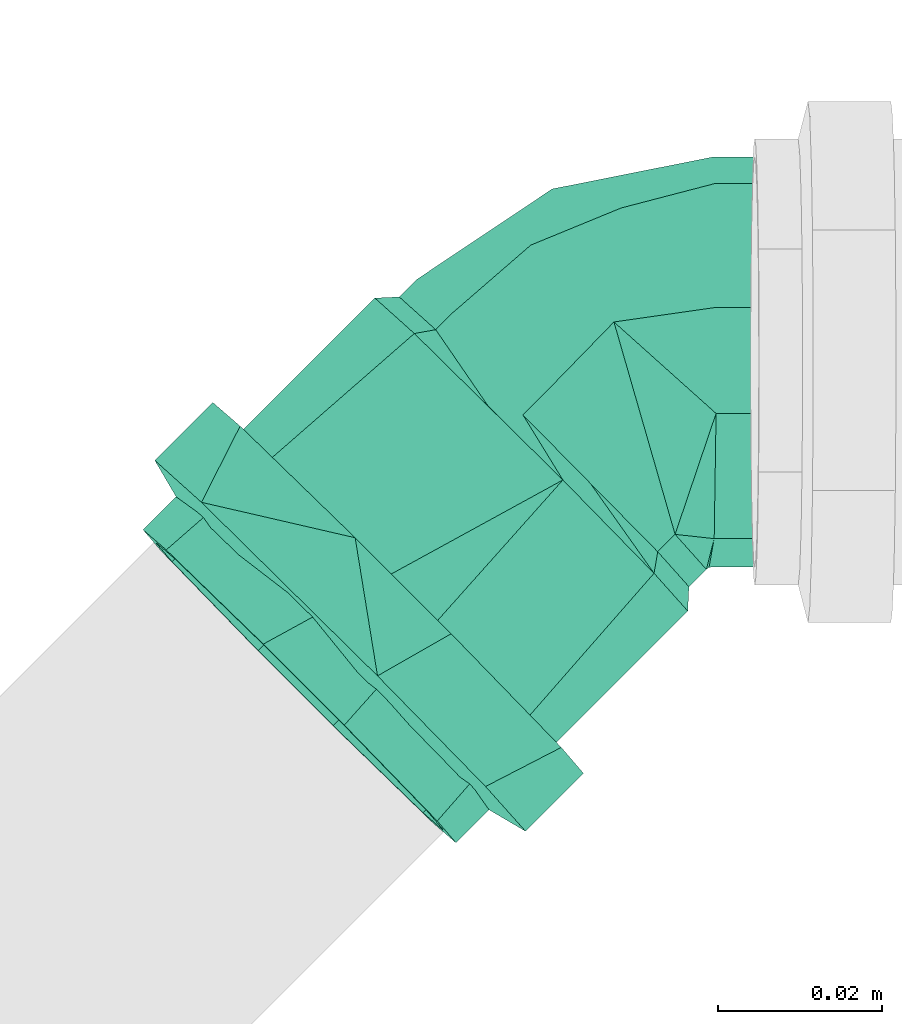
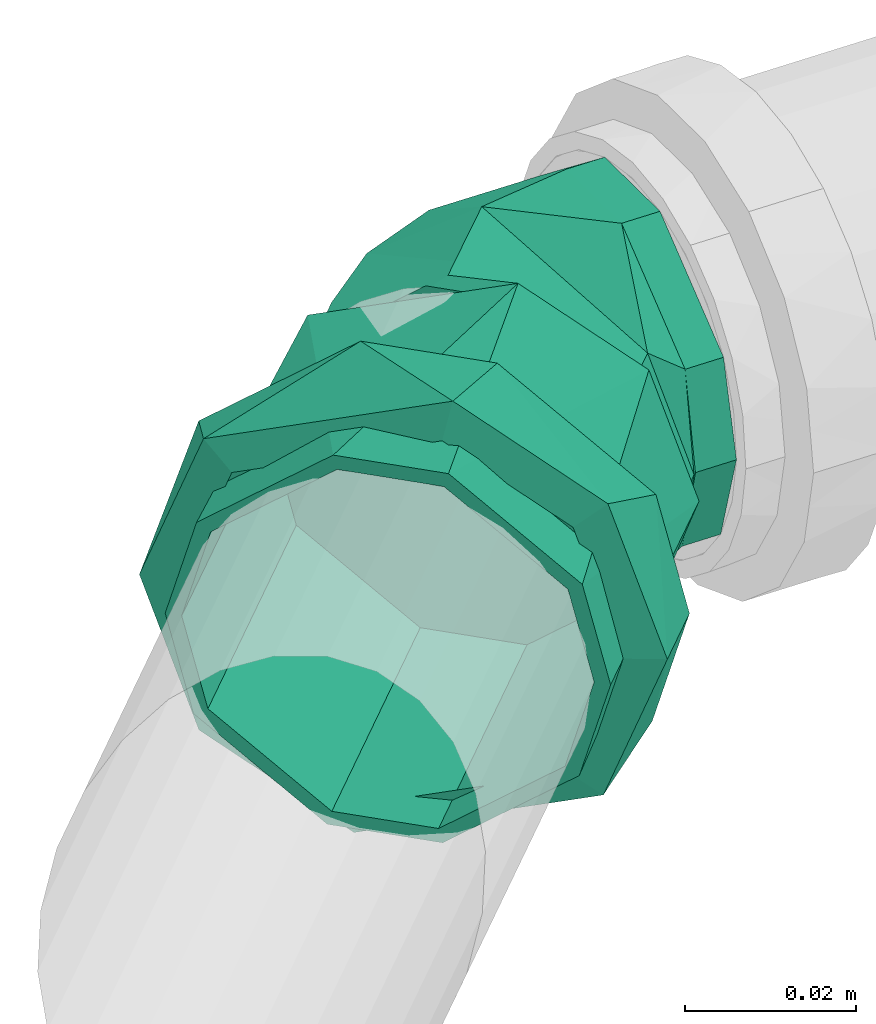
# One storey, part 294 of 589: 1 flow fitting.
"""IFC2X3 building model written with IfcOpenShell, lengths in millimetres."""

from ifc_helpers import new_model, entity, si_unit, converted_unit, derived_unit, direction, frame, origin, place, context, subcontext, project, spatial, faceted_brep, source, transform, mapped, material, type_object, type_shapes, element, save


model = new_model("IFC2X3")

# Units and contexts
model_context = context("Model", 3, precision=0.01, world=origin(), true_north=direction((6.123031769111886e-17, 1.0)))
body_context = subcontext(model_context, "Body", "Model", "MODEL_VIEW")
ifc_project = project(units=[si_unit("LENGTHUNIT", "METRE", prefix="MILLI"), si_unit("AREAUNIT", "SQUARE_METRE"), si_unit("VOLUMEUNIT", "CUBIC_METRE"), converted_unit("PLANEANGLEUNIT", "DEGREE", entity("IfcRatioMeasure", 0.017453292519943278), si_unit("PLANEANGLEUNIT", "RADIAN"), dimensions=[0, 0, 0, 0, 0, 0, 0]), si_unit("MASSUNIT", "GRAM", prefix="KILO"), derived_unit("MASSDENSITYUNIT", [(si_unit("MASSUNIT", "GRAM", prefix="KILO"), 1), (si_unit("LENGTHUNIT", "METRE"), -3)]), derived_unit("IONCONCENTRATIONUNIT", [(si_unit("MASSUNIT", "GRAM", prefix="KILO"), 1), (si_unit("LENGTHUNIT", "METRE"), -3)]), derived_unit("MOMENTOFINERTIAUNIT", [(si_unit("LENGTHUNIT", "METRE"), 4)]), si_unit("TIMEUNIT", "SECOND"), si_unit("FREQUENCYUNIT", "HERTZ"), si_unit("THERMODYNAMICTEMPERATUREUNIT", "DEGREE_CELSIUS"), derived_unit("THERMALTRANSMITTANCEUNIT", [(si_unit("MASSUNIT", "GRAM", prefix="KILO"), 1), (si_unit("THERMODYNAMICTEMPERATUREUNIT", "KELVIN"), -1), (si_unit("TIMEUNIT", "SECOND"), -3)]), derived_unit("THERMALCONDUCTANCEUNIT", [(si_unit("MASSUNIT", "GRAM", prefix="KILO"), 1), (si_unit("THERMODYNAMICTEMPERATUREUNIT", "KELVIN"), -1), (si_unit("TIMEUNIT", "SECOND"), -3), (si_unit("LENGTHUNIT", "METRE"), 1)]), derived_unit("VOLUMETRICFLOWRATEUNIT", [(si_unit("LENGTHUNIT", "METRE"), 3), (si_unit("TIMEUNIT", "SECOND"), -1)]), derived_unit("MASSFLOWRATEUNIT", [(si_unit("MASSUNIT", "GRAM", prefix="KILO"), 1), (si_unit("TIMEUNIT", "SECOND"), -1)]), derived_unit("ROTATIONALFREQUENCYUNIT", [(si_unit("TIMEUNIT", "SECOND"), -1)]), si_unit("ELECTRICCURRENTUNIT", "AMPERE"), si_unit("ELECTRICVOLTAGEUNIT", "VOLT"), si_unit("POWERUNIT", "WATT"), si_unit("FORCEUNIT", "NEWTON", prefix="KILO"), si_unit("ILLUMINANCEUNIT", "LUX"), si_unit("LUMINOUSFLUXUNIT", "LUMEN"), si_unit("LUMINOUSINTENSITYUNIT", "CANDELA"), derived_unit("USERDEFINED", [(si_unit("MASSUNIT", "GRAM", prefix="KILO"), -1), (si_unit("LENGTHUNIT", "METRE"), -2), (si_unit("TIMEUNIT", "SECOND"), 3), (si_unit("LUMINOUSFLUXUNIT", "LUMEN"), 1)]), derived_unit("USERDEFINED", [(si_unit("MASSUNIT", "GRAM", prefix="KILO"), 1), (si_unit("TIMEUNIT", "SECOND"), -3), (si_unit("LENGTHUNIT", "METRE"), 3), (si_unit("ELECTRICCURRENTUNIT", "AMPERE"), -2)]), derived_unit("SOUNDPOWERUNIT", [(si_unit("MASSUNIT", "GRAM", prefix="KILO"), 1), (si_unit("TIMEUNIT", "SECOND"), -3), (si_unit("LENGTHUNIT", "METRE"), 2)]), derived_unit("SOUNDPRESSUREUNIT", [(si_unit("MASSUNIT", "GRAM", prefix="KILO"), 1), (si_unit("LENGTHUNIT", "METRE"), -1), (si_unit("TIMEUNIT", "SECOND"), -2)]), derived_unit("LINEARVELOCITYUNIT", [(si_unit("LENGTHUNIT", "METRE"), 1), (si_unit("TIMEUNIT", "SECOND"), -1)]), si_unit("PRESSUREUNIT", "PASCAL"), derived_unit("USERDEFINED", [(si_unit("MASSUNIT", "GRAM", prefix="KILO"), 1), (si_unit("LENGTHUNIT", "METRE"), -2), (si_unit("TIMEUNIT", "SECOND"), -2)]), derived_unit("LINEARFORCEUNIT", [(si_unit("MASSUNIT", "GRAM", prefix="KILO"), 1), (si_unit("TIMEUNIT", "SECOND"), -2)]), derived_unit("PLANARFORCEUNIT", [(si_unit("MASSUNIT", "GRAM", prefix="KILO"), 1), (si_unit("LENGTHUNIT", "METRE"), -1), (si_unit("TIMEUNIT", "SECOND"), -2)]), derived_unit("SPECIFICHEATCAPACITYUNIT", [(si_unit("THERMODYNAMICTEMPERATUREUNIT", "KELVIN"), -1), (si_unit("LENGTHUNIT", "METRE"), 2), (si_unit("TIMEUNIT", "SECOND"), -2)]), derived_unit("HEATINGVALUEUNIT", [(si_unit("LENGTHUNIT", "METRE"), 2), (si_unit("TIMEUNIT", "SECOND"), -2)]), derived_unit("VAPORPERMEABILITYUNIT", [(si_unit("LENGTHUNIT", "METRE"), -1), (si_unit("TIMEUNIT", "SECOND"), 1)]), derived_unit("DYNAMICVISCOSITYUNIT", [(si_unit("MASSUNIT", "GRAM", prefix="KILO"), 1), (si_unit("TIMEUNIT", "SECOND"), -1), (si_unit("LENGTHUNIT", "METRE"), -1)]), derived_unit("THERMALEXPANSIONCOEFFICIENTUNIT", [(si_unit("THERMODYNAMICTEMPERATUREUNIT", "KELVIN"), -1)]), derived_unit("MODULUSOFELASTICITYUNIT", [(si_unit("MASSUNIT", "GRAM", prefix="KILO"), 1), (si_unit("LENGTHUNIT", "METRE"), -1), (si_unit("TIMEUNIT", "SECOND"), -2)]), derived_unit("ISOTHERMALMOISTURECAPACITYUNIT", [(si_unit("LENGTHUNIT", "METRE"), 3), (si_unit("MASSUNIT", "GRAM", prefix="KILO"), -1)]), derived_unit("MOISTUREDIFFUSIVITYUNIT", [(si_unit("TIMEUNIT", "SECOND"), -1), (si_unit("LENGTHUNIT", "METRE"), 2)])], contexts=[model_context])

# Site, building, storey
site_placement = place(None, origin())
site = spatial("IfcSite", under=ifc_project, at=site_placement, Name="Default", CompositionType="ELEMENT")
building_placement = place(site_placement, origin())
building = spatial("IfcBuilding", under=site, at=building_placement, CompositionType="ELEMENT")
storey_placement = place(building_placement, frame((0.0, 0.0, 100.0)))
storey = spatial("IfcBuildingStorey", under=building, at=storey_placement, Name="TÉRREO", CompositionType="ELEMENT", Elevation=100.0)

# Flow fitting
ifc_material = material(Name="PVC Série Normal")
pipe_fitting_type = type_object("IfcPipeFittingType", Name="PVC Esgoto_Joelho 45_90_Rodrigo MEP:a. Série Normal", PredefinedType="NOTDEFINED", material=ifc_material)
shared_shape = source(origin(), body_context, "Body", "Brep", [
    faceted_brep([(-15.967030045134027, -21.650635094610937, -12.500000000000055), (-15.967030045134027, -25.0, 0.0), (-15.967030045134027, -21.650635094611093, 12.499999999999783), (-15.967030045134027, -6.470476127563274, 24.148145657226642), (-15.967030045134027, 6.470476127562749, 24.14814565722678), (-15.967030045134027, 21.650635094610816, 12.500000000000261), (-15.967030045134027, 25.0, 0.0), (-15.967030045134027, 21.650635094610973, -12.499999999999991), (-15.967030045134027, 6.4704761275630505, -24.1481456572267), (-15.967030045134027, -6.4704761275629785, -24.14814565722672), (-10.767030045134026, 6.4704761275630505, -24.1481456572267), (-10.767030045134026, 21.650635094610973, -12.499999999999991), (-10.767030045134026, 25.0, 0.0), (-10.767030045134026, 21.650635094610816, 12.500000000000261), (-10.767030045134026, 6.470476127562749, 24.14814565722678), (-10.767030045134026, -6.470476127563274, 24.148145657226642), (-10.767030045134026, -21.650635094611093, 12.499999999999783), (-10.767030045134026, -25.0, 0.0), (-10.767030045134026, -21.650635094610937, -12.500000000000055), (-10.767030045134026, -6.4704761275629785, -24.14814565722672)], [[[0, 1, 2, 3, 4, 5, 6, 7, 8, 9]], [[10, 11, 12, 13, 14, 15, 16, 17, 18, 19]], [[1, 17, 16, 2]], [[2, 16, 15, 3]], [[15, 14, 4, 3]], [[4, 14, 13, 5]], [[5, 13, 12, 6]], [[6, 12, 11, 7]], [[7, 11, 10, 8]], [[10, 19, 9, 8]], [[9, 19, 18, 0]], [[0, 18, 17, 1]]]),
    faceted_brep([(32.49893906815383, 22.607125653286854, -26.079997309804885), (22.61789019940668, 32.49144831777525, -26.079997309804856), (21.702978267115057, 33.406663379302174, -30.90962644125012), (33.41385100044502, 21.691910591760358, -30.90962644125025), (44.08973158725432, 11.012492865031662, -13.500000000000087), (7.965742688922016, 47.14845038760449, -16.0), (11.027097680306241, 44.08608110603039, -13.499999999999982), (8.46969404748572, 46.64433205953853, 0.0), (4.934745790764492, 50.18045151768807, 0.0), (11.027097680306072, 44.08608110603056, 13.499999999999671), (7.965742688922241, 47.14845038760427, 16.0), (22.617890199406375, 32.49144831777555, 26.079997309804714), (21.702978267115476, 33.406663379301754, 30.909626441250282), (32.49893906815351, 22.607125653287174, 26.07999730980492), (33.41385100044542, 21.69191059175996, 30.909626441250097), (44.08973158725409, 11.01249286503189, 13.500000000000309), (47.15108657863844, 7.950123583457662, 16.0), (50.18208347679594, 4.9181224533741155, 0.0), (46.64713522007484, 8.454241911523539, 0.0), (47.15108657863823, 7.950123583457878, -16.0), (57.254322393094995, 11.988018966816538, 0.0), (51.96057869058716, 17.283516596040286, 20.570569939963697), (30.698989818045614, 38.55214987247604, 31.51307341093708), (17.297080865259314, 51.95849915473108, 20.56442050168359), (12.006984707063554, 57.25034803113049, 0.0), (17.297080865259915, 51.95849915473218, -20.564420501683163), (38.55672846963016, 30.691807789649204, -31.51446740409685), (51.96057869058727, 17.28351659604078, -20.57056993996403), (15.541932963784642, 53.714228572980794, 0.0), (16.461324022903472, 54.633315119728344, 0.0), (16.820634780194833, 52.43510309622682, 6.749999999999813), (18.099336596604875, 51.15597761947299, 13.49999999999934), (20.99703472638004, 48.257319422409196, 16.64499932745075), (23.894732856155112, 45.35866122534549, 19.789998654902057), (26.792430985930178, 42.4600030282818, 22.93499798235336), (29.690129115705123, 39.561344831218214, 26.07999730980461), (34.630653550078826, 34.619183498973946, 26.079997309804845), (39.571177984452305, 29.677022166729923, 26.079997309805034), (42.46887611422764, 26.778363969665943, 22.93499798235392), (45.36657424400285, 23.87970577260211, 19.789998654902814), (48.264272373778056, 20.981047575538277, 16.644999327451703), (51.16197050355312, 18.082389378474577, 13.500000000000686), (52.440672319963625, 16.80326390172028, 6.7500000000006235), (54.6387651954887, 16.44322497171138, 0.0), (53.719374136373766, 15.524138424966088, 0.0), (52.44067231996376, 16.80326390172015, -6.750000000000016), (51.161970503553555, 18.082389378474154, -13.499999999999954), (48.26427237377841, 20.98104757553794, -16.644999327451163), (45.36657424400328, 23.879705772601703, -19.78999865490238), (42.468876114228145, 26.778363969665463, -22.9349979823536), (39.571177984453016, 29.677022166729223, -26.079997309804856), (34.6306535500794, 34.6191834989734, -26.079997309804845), (29.690129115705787, 39.56134483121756, -26.079997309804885), (26.792430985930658, 42.46000302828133, -22.93499798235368), (23.894732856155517, 45.358661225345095, -19.78999865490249), (20.99703472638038, 48.25731942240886, -16.64499932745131), (18.09933659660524, 51.15597761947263, -13.50000000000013), (16.82063478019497, 52.43510309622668, -6.75000000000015), (52.40700587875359, 18.675723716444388, 8.67561489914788), (50.175246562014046, 20.908222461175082, 17.351229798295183), (45.690789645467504, 25.394165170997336, 19.661005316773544), (41.20633272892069, 29.88010788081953, 21.97078083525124), (36.721875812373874, 34.36605059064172, 24.280556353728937), (32.23741889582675, 38.851993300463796, 26.590331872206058), (20.927920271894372, 50.16523899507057, 17.356418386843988), (18.694622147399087, 52.39927705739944, 8.678209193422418), (26.582669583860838, 44.50861614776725, 21.973375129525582), (18.694622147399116, 52.39927705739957, -8.678209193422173), (20.9279202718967, 50.165238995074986, -17.35641838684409), (25.412786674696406, 45.67888666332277, -19.664602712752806), (29.897653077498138, 41.19253433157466, -21.97278703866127), (34.38251948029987, 36.70618199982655, -24.28097136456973), (38.86738588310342, 32.21982966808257, -26.58915569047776), (50.1752465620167, 20.908222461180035, -17.351229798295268), (52.40700587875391, 18.67572371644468, -8.675614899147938), (44.521316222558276, 26.564026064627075, -21.970192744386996)], [[[0, 1, 2]], [[2, 3, 0]], [[4, 0, 3]], [[5, 2, 1]], [[1, 6, 5]], [[6, 7, 5]], [[8, 5, 7]], [[8, 7, 9]], [[10, 8, 9]], [[9, 11, 10]], [[11, 12, 10]], [[13, 12, 11]], [[12, 13, 14]], [[13, 15, 14]], [[16, 14, 15]], [[16, 15, 17]], [[17, 15, 18]], [[18, 4, 19]], [[17, 18, 19]], [[3, 19, 4]], [[20, 21, 16]], [[20, 16, 17]], [[16, 21, 14]], [[21, 22, 14]], [[12, 22, 23]], [[10, 23, 24]], [[23, 10, 12]], [[10, 24, 8]], [[22, 12, 14]], [[24, 25, 5]], [[24, 5, 8]], [[5, 25, 2]], [[25, 26, 2]], [[3, 26, 27]], [[19, 27, 20]], [[27, 19, 3]], [[19, 20, 17]], [[26, 3, 2]], [[9, 7, 28, 29, 30, 31]], [[11, 9, 31, 32, 33, 34, 35]], [[11, 35, 36, 37, 13]], [[15, 13, 37, 38, 39, 40, 41]], [[18, 15, 41, 42, 43, 44]], [[4, 18, 44, 43, 45, 46]], [[0, 4, 46, 47, 48, 49, 50]], [[0, 50, 51, 52, 1]], [[6, 1, 52, 53, 54, 55, 56]], [[7, 6, 56, 57, 29, 28]], [[20, 43, 58, 59]], [[59, 21, 20]], [[21, 59, 60, 61, 62, 63]], [[21, 63, 22]], [[23, 64, 65, 29]], [[23, 22, 64]], [[24, 23, 29]], [[22, 63, 66, 64]], [[25, 29, 67, 68]], [[29, 25, 24]], [[25, 68, 26]], [[26, 68, 69, 70, 71, 72]], [[20, 73, 74, 43]], [[27, 72, 75, 73]], [[27, 73, 20]], [[72, 27, 26]], [[41, 40, 39, 59]], [[31, 65, 64]], [[61, 60, 38]], [[38, 60, 39]], [[63, 62, 36]], [[66, 63, 35]], [[32, 31, 64, 33]], [[36, 62, 37]], [[36, 35, 63]], [[38, 37, 61]], [[34, 33, 66, 35]], [[65, 30, 29]], [[42, 58, 43]], [[60, 59, 39]], [[37, 62, 61]], [[58, 41, 59]], [[66, 33, 64]], [[42, 41, 58]], [[65, 31, 30]], [[56, 55, 54, 68]], [[46, 74, 73]], [[70, 69, 53]], [[53, 69, 54]], [[72, 71, 51]], [[75, 72, 50]], [[47, 46, 73, 48]], [[51, 71, 52]], [[51, 50, 72]], [[53, 52, 70]], [[49, 48, 75, 50]], [[74, 45, 43]], [[57, 67, 29]], [[69, 68, 54]], [[52, 71, 70]], [[67, 56, 68]], [[75, 48, 73]], [[57, 56, 67]], [[74, 46, 45]]]),
    faceted_brep([(15.866824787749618, 6.71244969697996, 24.148145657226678), (26.599040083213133, -4.023321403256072, 12.49999999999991), (28.96700640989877, -6.392072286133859, 0.0), (26.59904008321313, -4.023321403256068, -12.499999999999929), (15.866824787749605, 6.7124496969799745, -24.148145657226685), (6.71770546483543, 15.864600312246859, -24.148145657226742), (-4.014509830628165, 26.60037141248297, -12.50000000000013), (-6.3824761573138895, 28.969122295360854, 0.0), (-4.014509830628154, 26.60037141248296, 12.500000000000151), (6.71770546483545, 15.86460031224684, 24.148145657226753), (27.4111138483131, -7.94744951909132, 0.0), (23.27822622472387, -3.813192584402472, -16.06595351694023), (30.380985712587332, -7.806520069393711, 0.0), (5.635977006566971, 16.94668716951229, -21.97078083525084), (14.604890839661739, 7.9748017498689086, -26.590331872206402), (6.669126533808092, 12.801410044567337, -24.620677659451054), (25.914389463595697, -3.3384439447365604, -17.35641838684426), (-3.8026314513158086, 23.276637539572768, -16.070757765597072), (-3.332936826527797, 25.918572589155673, -17.35122979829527), (14.973676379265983, 4.494108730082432, -20.34331558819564), (-7.9383687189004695, 27.413745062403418, 0.0), (-7.796455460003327, 30.38357007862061, 0.0), (-3.8026314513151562, 23.27663753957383, 16.07075776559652), (-3.332936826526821, 25.91857258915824, 17.35122979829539), (16.944656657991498, 5.634260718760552, 21.972787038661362), (7.974923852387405, 14.606965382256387, 26.58915569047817), (12.807984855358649, 6.66051779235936, 24.619588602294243), (23.27822622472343, -3.8131925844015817, 16.065953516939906), (25.914389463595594, -3.3384439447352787, 17.356418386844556), (4.502676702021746, 14.968577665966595, 20.345173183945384), (34.640696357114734, 44.51027239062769, -26.07999730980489), (35.006661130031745, 44.14418636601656, -24.14814565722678), (44.15578045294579, 34.99203575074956, -24.148145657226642), (23.049903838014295, 56.10490517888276, -13.499999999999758), (44.52174522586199, 34.62594972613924, -26.07999730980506), (24.274445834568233, 54.879957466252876, -12.500000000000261), (21.906479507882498, 57.24870834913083, 0.0), (20.49250020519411, 58.66315613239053, 0.0), (24.27444583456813, 54.87995746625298, 12.499999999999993), (23.0499038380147, 56.104905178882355, 13.50000000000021), (35.00666113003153, 44.144186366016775, 24.148145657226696), (34.640696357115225, 44.5102723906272, 26.07999730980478), (44.15578045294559, 34.992035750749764, 24.14814565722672), (44.52174522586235, 34.625949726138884, 26.079997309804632), (54.88799574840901, 24.25626465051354, 12.500000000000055), (56.11253774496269, 23.031316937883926, 13.499999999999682), (58.66994137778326, 20.473065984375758, 0.0), (57.25596207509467, 21.88751376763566, 0.0), (56.11253774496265, 23.03131693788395, -13.500000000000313), (54.88799574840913, 24.256264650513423, -12.499999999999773), (25.289442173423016, -10.068418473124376, 0.0), (21.154302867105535, -5.931909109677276, 16.069749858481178), (10.68377913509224, 4.542083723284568, 24.62022085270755), (2.3793594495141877, 12.849254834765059, 20.344851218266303), (-5.925060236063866, 21.156425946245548, 16.069481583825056), (-10.060040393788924, 25.292776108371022, 0.0), (-5.925060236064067, 21.156425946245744, -16.06948158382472), (4.5453788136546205, 10.68251782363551, -24.620160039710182), (21.154302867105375, -5.931909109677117, -16.069749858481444), (12.849840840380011, 2.375304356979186, -20.344954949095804), (-10.767030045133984, -21.65063509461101, 12.499999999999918), (-10.767030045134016, -6.470476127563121, 24.148145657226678), (-10.767030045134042, 6.470476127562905, 24.14814565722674), (-10.767030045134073, 21.650635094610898, 12.500000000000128), (-10.76703004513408, 25.0, 0.0), (-10.767030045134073, 21.65063509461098, -12.499999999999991), (-10.767030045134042, 6.470476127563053, -24.1481456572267), (-10.767030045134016, -6.470476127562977, -24.14814565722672), (-10.767030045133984, -21.650635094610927, -12.500000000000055), (-10.767030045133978, -25.0, 0.0), (11.656201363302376, -14.144371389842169, 15.023571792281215), (1.6913455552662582, -4.6924143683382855, 23.963323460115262), (0.6213662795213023, -18.676600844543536, 14.858628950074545), (-3.6046282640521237, -23.575618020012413, 0.0), (8.745922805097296, -21.11947231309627, 0.0), (-10.384423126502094, 25.07608877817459, 0.0), (19.21699707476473, -14.124805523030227, 0.0), (1.6262309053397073, -4.6803495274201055, -23.97388545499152), (0.6210080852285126, -18.681175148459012, -14.852749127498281), (11.682599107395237, -14.100315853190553, -15.057518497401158)], [[[0, 1, 2, 3, 4, 5, 6, 7, 8, 9]], [[10, 11, 12]], [[13, 14, 15]], [[16, 12, 11]], [[13, 17, 18]], [[17, 13, 15]], [[16, 19, 14]], [[17, 20, 18]], [[18, 20, 21]], [[19, 16, 11]], [[14, 19, 15]], [[20, 22, 23]], [[24, 25, 26]], [[23, 21, 20]], [[24, 27, 28]], [[27, 24, 26]], [[23, 29, 25]], [[27, 10, 12]], [[28, 27, 12]], [[29, 23, 22]], [[25, 29, 26]], [[30, 31, 32]], [[31, 30, 33]], [[32, 34, 30]], [[33, 35, 31]], [[33, 36, 35]], [[36, 33, 37]], [[38, 36, 37]], [[38, 37, 39]], [[39, 40, 38]], [[39, 41, 40]], [[40, 41, 42]], [[43, 42, 41]], [[43, 44, 42]], [[44, 43, 45]], [[46, 44, 45]], [[47, 44, 46]], [[48, 47, 46]], [[48, 49, 47]], [[49, 48, 34]], [[34, 32, 49]], [[46, 45, 12]], [[45, 28, 12]], [[28, 45, 43]], [[43, 25, 24, 28]], [[23, 41, 39]], [[21, 39, 37]], [[41, 23, 25]], [[23, 39, 21]], [[41, 25, 43]], [[37, 33, 21]], [[33, 18, 21]], [[18, 33, 30]], [[30, 14, 13, 18]], [[16, 34, 48]], [[12, 48, 46]], [[34, 16, 14]], [[16, 48, 12]], [[34, 14, 30]], [[3, 2, 47, 49]], [[4, 3, 49, 32]], [[32, 31, 5, 4]], [[6, 5, 31, 35]], [[7, 6, 35, 36]], [[8, 7, 36, 38]], [[9, 8, 38, 40]], [[40, 42, 0, 9]], [[1, 0, 42, 44]], [[2, 1, 44, 47]], [[10, 27, 50]], [[27, 51, 50]], [[51, 27, 26]], [[51, 26, 52]], [[52, 29, 53]], [[22, 54, 53]], [[22, 20, 54]], [[26, 29, 52]], [[54, 20, 55]], [[29, 22, 53]], [[20, 17, 56]], [[20, 56, 55]], [[56, 17, 57]], [[58, 59, 19]], [[17, 15, 57]], [[15, 59, 57]], [[58, 19, 11]], [[11, 50, 58]], [[50, 11, 10]], [[59, 15, 19]], [[60, 61, 62, 63, 64, 65, 66, 67, 68, 69]], [[70, 71, 72]], [[61, 71, 62]], [[60, 69, 73]], [[61, 72, 71]], [[70, 72, 74]], [[63, 62, 54]], [[64, 63, 75]], [[61, 60, 72]], [[73, 74, 72]], [[70, 76, 51]], [[52, 70, 51]], [[52, 71, 70]], [[76, 70, 74]], [[75, 63, 55]], [[60, 73, 72]], [[63, 54, 55]], [[54, 62, 71]], [[76, 50, 51]], [[71, 52, 53, 54]], [[67, 77, 78]], [[79, 57, 59, 58]], [[65, 64, 75]], [[66, 65, 56]], [[78, 73, 68]], [[67, 78, 68]], [[74, 73, 78]], [[66, 57, 77]], [[55, 56, 65]], [[76, 79, 58]], [[73, 69, 68]], [[57, 66, 56]], [[74, 78, 79]], [[67, 66, 77]], [[74, 79, 76]], [[57, 79, 77]], [[58, 50, 76]], [[79, 78, 77]], [[65, 75, 55]]]),
])
type_shapes(pipe_fitting_type, [shared_shape])
flow_fitting_placement = place(storey_placement, frame((7395.836547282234, 2533.929553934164, -284.6341716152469), z_axis=(0.019995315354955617, 0.0082823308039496, 0.9997657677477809), x_axis=(-0.999800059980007, 0.0, 0.019996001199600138)))
element("IfcFlowFitting", 1, at=flow_fitting_placement, inside=storey, type_object=pipe_fitting_type, material=ifc_material, Name="PVC Esgoto_Joelho 45_90_Rodrigo MEP:a. Série Normal", ObjectType="PVC Esgoto_Joelho 45_90_Rodrigo MEP:a. Série Normal", context=body_context, shape_type="MappedRepresentation", body=[
    mapped(shared_shape, transform((0.0, 0.0, 0.0), scale=1.0)),
])

save(model, "model.ifc")
